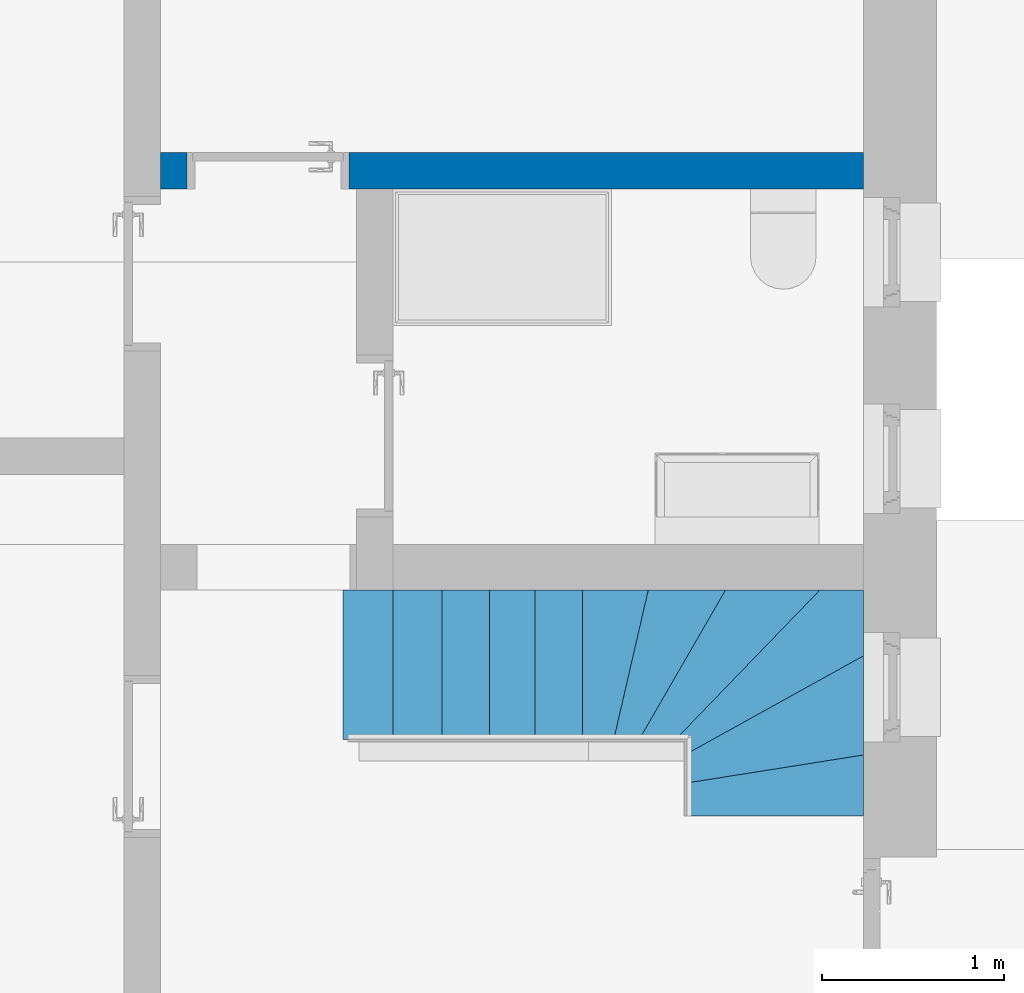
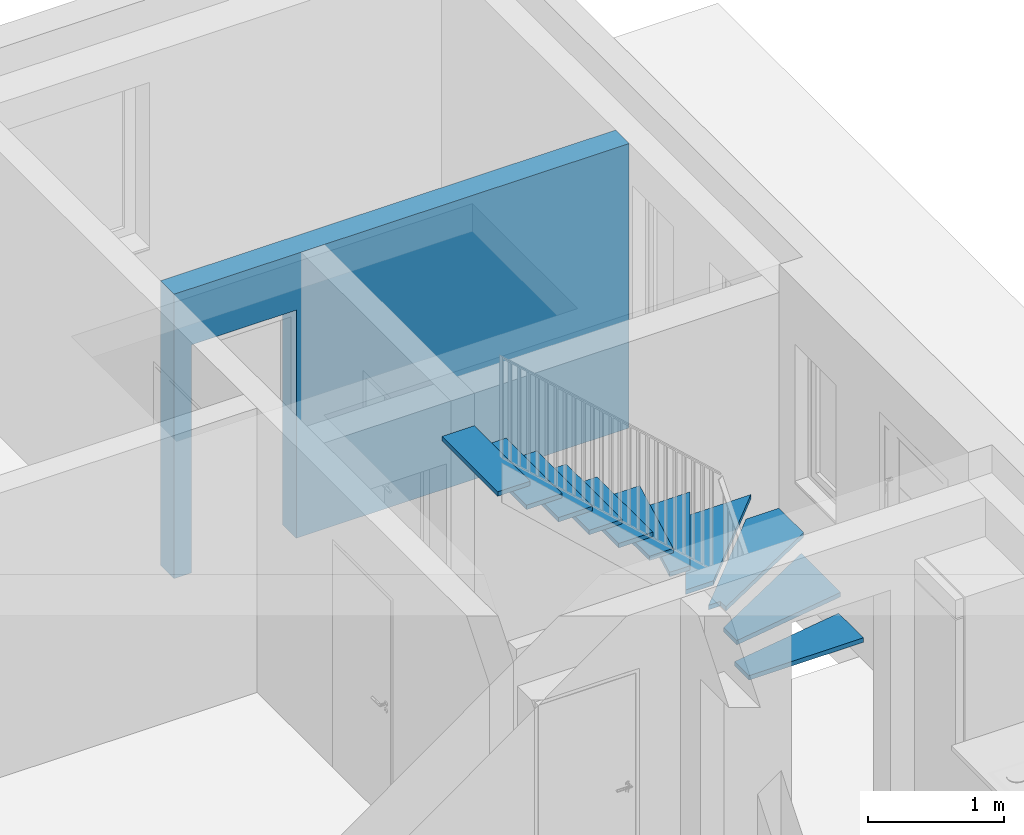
# One storey, part 4 of 18: 1 stair flight, 1 wall, 1 opening, 1 element without a shape of its own.
"""IFC2X3 building model written with IfcOpenShell, lengths in metres."""

from ifc_helpers import new_model, entity, si_unit, converted_unit, derived_unit, direction, frame, frame_2d, origin, origin_2d_with_axis, place, context, subcontext, project, spatial, polyline, rectangle, outline, extrude, material, layer, layer_set, layer_usage, type_object, element, aggregate, save


model = new_model("IFC2X3")

# Units and contexts
model_context = context("Model", 3, precision=1e-05, world=origin(), true_north=direction((6.123233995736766e-17, 1.0)))
body_context = subcontext(model_context, "Body", "Model", "MODEL_VIEW")
ifc_project = project(units=[si_unit("LENGTHUNIT", "METRE"), si_unit("AREAUNIT", "SQUARE_METRE"), si_unit("VOLUMEUNIT", "CUBIC_METRE"), si_unit("POWERUNIT", "WATT"), derived_unit("USERDEFINED", [(si_unit("MASSUNIT", "GRAM", prefix="KILO"), 1), (si_unit("TIMEUNIT", "SECOND"), -3)]), derived_unit("THERMALRESISTANCEUNIT", [(si_unit("MASSUNIT", "GRAM", prefix="KILO"), -1), (si_unit("TIMEUNIT", "SECOND"), 3), (si_unit("THERMODYNAMICTEMPERATUREUNIT", "KELVIN"), 1)]), derived_unit("USERDEFINED", [(si_unit("MASSUNIT", "GRAM", prefix="KILO"), 1), (si_unit("TIMEUNIT", "SECOND"), -2), (si_unit("THERMODYNAMICTEMPERATUREUNIT", "KELVIN"), -1)]), derived_unit("THERMALTRANSMITTANCEUNIT", [(si_unit("MASSUNIT", "GRAM", prefix="KILO"), 1), (si_unit("TIMEUNIT", "SECOND"), -3), (si_unit("THERMODYNAMICTEMPERATUREUNIT", "KELVIN"), -1)]), converted_unit("PLANEANGLEUNIT", "DEGREE", entity("IfcPlaneAngleMeasure", 0.017453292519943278), si_unit("PLANEANGLEUNIT", "RADIAN"), dimensions=[0, 0, 0, 0, 0, 0, 0]), derived_unit("MOMENTOFINERTIAUNIT", [(si_unit("LENGTHUNIT", "METRE"), 4)])], contexts=[model_context])

# Site, building, storey
site_placement = place(None, origin())
site = spatial("IfcSite", under=ifc_project, at=site_placement, Name="Default", CompositionType="ELEMENT")
building_placement = place(site_placement, origin())
building = spatial("IfcBuilding", under=site, at=building_placement, CompositionType="ELEMENT")
storey_placement = place(building_placement, frame((0.0, 0.0, 2.6)))
storey = spatial("IfcBuildingStorey", under=building, at=storey_placement, Name="Erdgeschoss", CompositionType="ELEMENT", Elevation=2.6)

# Wall, opening
ifc_material_1 = material(Name="Mauerwerk - Ziegel")
ifc_layer = layer(ifc_material_1, 0.2)
ifc_layer_set = layer_set([ifc_layer], Name="Basiswand:Ziegel 200")
ifc_layer_usage = layer_usage(ifc_layer_set, "AXIS2", "NEGATIVE", 0.1)
wall_type = type_object("IfcWallType", Name="Basiswand:Ziegel 200", PredefinedType="STANDARD", material=ifc_layer_set)
wall_placement = place(storey_placement, frame((34.36875489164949, 25.382272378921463, 0.0)))
wall = element("IfcWallStandardCase", 1, at=wall_placement, inside=storey, type_object=wall_type, material=ifc_layer_usage, Name="Basiswand:Ziegel 200", ObjectType="Basiswand:Ziegel 200", context=body_context, shape_type="SweptSolid", body=[
    extrude(rectangle(XDim=3.8579651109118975, YDim=0.20000000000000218, at=frame_2d((1.9289825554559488, -1.9845236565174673e-15), x_axis=(1.0, 0.0))), origin(), (0.0, 0.0, 1.0), 2.5500000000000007),
])
opening_placement = place(wall_placement, frame((0.14499999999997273, -0.10000000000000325, -0.1800000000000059)))
element("IfcOpeningElement", 2, at=opening_placement, cuts=wall, Name="TU DF 1 - Rahmenstock flächenbündig:DL - 800 x 2000:1", ObjectType="Opening", context=body_context, shape_type="SweptSolid", body=[
    extrude(rectangle(XDim=2.2249999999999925, YDim=0.8899999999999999, at=frame_2d((1.1124999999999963, 0.44500000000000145), x_axis=(-1.0, 0.0))), frame((0.0, 0.0, 0.0), z_axis=(0.0, 1.0, 0.0), x_axis=(0.0, 0.0, 1.0)), (0.0, 0.0, 1.0), 0.2),
])

# Stair, stair flight
type_product = type_object("IfcTypeProduct", Name="Zusammengebaute Treppe:Wangen Stahl - Stufen Holz - 1 Stockwerkstrennlinie")
stair_placement = place(storey_placement, origin())
stair = element("IfcStair", 3, at=stair_placement, inside=storey, type_object=type_product, Name="Zusammengebaute Treppe:Treppe", ObjectType="Zusammengebaute Treppe:Wangen Stahl - Stufen Holz - 1 Stockwerkstrennlinie", ShapeType="NOTDEFINED")
ifc_material_2 = material(Name="Holz - generisch 140-100-70")
stair_flight_type = type_object("IfcStairFlightType", Name="Treppenlauf (nicht massiv):Holz_40 mm Auftritt", PredefinedType="NOTDEFINED")
stair_flight_placement = place(stair_placement, frame((35.368754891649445, 21.842272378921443, 0.0)))
stair_flight = element("IfcStairFlight", 4, at=stair_flight_placement, type_object=stair_flight_type, material=ifc_material_2, Name="Zusammengebaute Treppe:Treppe:2594539 Run 1", ObjectType="Treppenlauf (nicht massiv):Holz_40 mm Auftritt", NumberOfRiser=12, NumberOfTreads=11, RiserHeight=0.6739391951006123, TreadLength=0.7874015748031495, context=body_context, shape_type="SweptSolid", body=[
    extrude(outline(polyline([(-0.06677875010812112, -0.4850000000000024), (0.14359520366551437, -0.4850000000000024), (0.1435952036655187, 0.48499999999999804), (-0.22041165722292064, 0.48499999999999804), (-0.06677875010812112, -0.4850000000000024)])), frame((2.3729651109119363, 0.1435952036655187, 0.16541666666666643), z_axis=(0.0, 0.0, 1.0), x_axis=(0.0, -1.0, 0.0)), (0.0, 0.0, 1.0), 0.04000000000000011),
    extrude(outline(polyline([(0.0756778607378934, -0.4850000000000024), (0.26997848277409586, -0.4850000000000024), (0.11634557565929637, 0.48499999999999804), (-0.46200191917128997, 0.48499999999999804), (0.0756778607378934, -0.4850000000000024)])), frame((2.3729651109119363, 0.4499784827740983, 0.37083333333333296), z_axis=(0.0, 0.0, 1.0), x_axis=(0.0, -1.0, 0.0)), (0.0, 0.0, 1.0), 0.04000000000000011),
    extrude(outline(polyline([(-0.5231140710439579, 0.33627996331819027), (0.2687507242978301, -0.4837200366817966), (0.548590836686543, -0.4837200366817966), (0.548590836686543, -0.12139981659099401), (-0.4214091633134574, 0.4162799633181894), (-0.4214091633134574, 0.33627996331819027), (-0.5231140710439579, 0.33627996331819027)])), frame((2.3093742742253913, 0.7562799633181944, 0.5762499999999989), z_axis=(0.0, 0.0, -1.0), x_axis=(1.0, 0.0, 0.0)), (0.0, 0.0, -1.0), 0.04000000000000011),
    extrude(outline(polyline([(-0.4336435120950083, -0.40999999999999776), (-0.19900249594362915, -0.40999999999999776), (0.5928622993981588, 0.4099999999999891), (0.03978370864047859, 0.4099999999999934), (-0.4336435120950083, -0.40999999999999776)])), frame((2.0269676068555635, 0.830000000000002, 0.7816666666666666)), (0.0, 0.0, 1.0), 0.04000000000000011),
    extrude(outline(polyline([(-0.2510793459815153, -0.40999999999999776), (-0.080290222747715, -0.40999999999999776), (0.3931369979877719, 0.4099999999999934), (-0.06176742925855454, 0.4099999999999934), (-0.2510793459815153, -0.40999999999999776)])), frame((1.7082553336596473, 0.830000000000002, 0.9870833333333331)), (0.0, 0.0, 1.0), 0.04000000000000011),
    extrude(outline(polyline([(-0.14881053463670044, -0.40999999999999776), (0.0541545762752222, -0.40999999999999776), (0.24346649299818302, 0.4099999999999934), (-0.14881053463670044, 0.4099999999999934), (-0.14881053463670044, -0.40999999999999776)])), frame((1.4338105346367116, 0.830000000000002, 1.1924999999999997)), (0.0, 0.0, 1.0), 0.04000000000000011),
    extrude(rectangle(XDim=0.29000000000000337, YDim=0.8199999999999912, at=frame_2d((0.0, -2.1649348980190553e-15), x_axis=(1.0, 0.0))), frame((1.1700000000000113, 0.830000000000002, 1.3979166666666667)), (0.0, 0.0, 1.0), 0.04000000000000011),
    extrude(rectangle(XDim=0.28000000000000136, YDim=0.8199999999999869, at=frame_2d((2.1649348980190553e-15, 0.0), x_axis=(1.0, 0.0))), frame((0.9150000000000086, 0.830000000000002, 1.6033333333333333)), (0.0, 0.0, 1.0), 0.04000000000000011),
    extrude(rectangle(XDim=0.29000000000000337, YDim=0.8199999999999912, at=origin_2d_with_axis()), frame((0.6600000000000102, 0.830000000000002, 1.8087499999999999)), (0.0, 0.0, 1.0), 0.04000000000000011),
    extrude(rectangle(XDim=0.30000000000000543, YDim=0.8199999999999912, at=frame_2d((2.1649348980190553e-15, -2.1649348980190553e-15), x_axis=(1.0, 0.0))), frame((0.3950000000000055, 0.8300000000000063, 2.014166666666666)), (0.0, 0.0, 1.0), 0.04000000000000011),
    extrude(rectangle(XDim=0.27500000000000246, YDim=0.8199999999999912, at=frame_2d((2.1649348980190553e-15, -2.1649348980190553e-15), x_axis=(1.0, 0.0))), frame((0.1375000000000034, 0.8300000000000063, 2.219583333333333)), (0.0, 0.0, 1.0), 0.04000000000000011),
])
aggregate(stair, [stair_flight])

save(model, "model.ifc")
